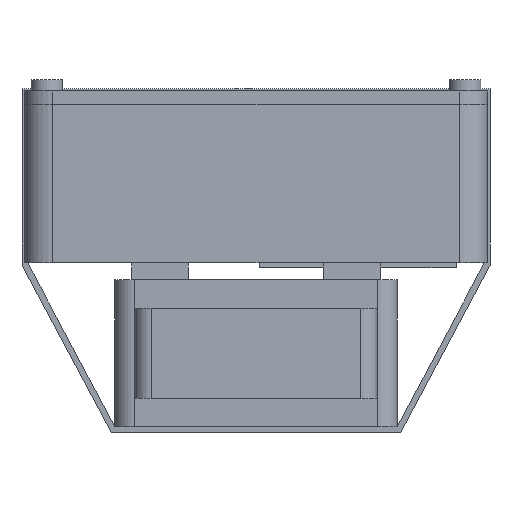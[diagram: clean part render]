
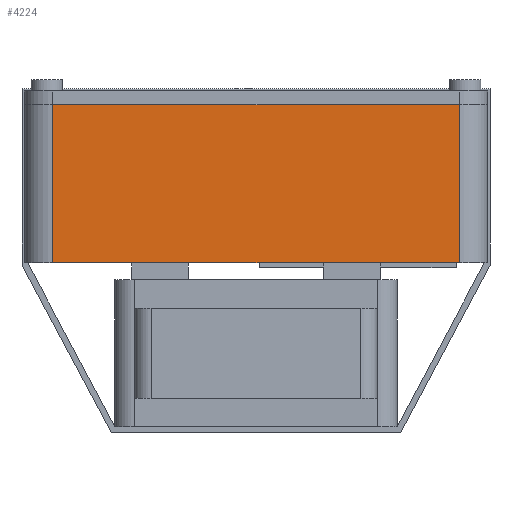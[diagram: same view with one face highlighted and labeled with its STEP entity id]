
A CAD part, front view. The second image highlights one B-rep face of the part: STEP entity #4224.
In plain terms, the highlighted planar face has unit normal (0, -1, 0).
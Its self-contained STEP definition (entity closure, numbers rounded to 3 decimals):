
#482 = PLANE('',#483);
#483 = AXIS2_PLACEMENT_3D('',#484,#485,#486);
#484 = CARTESIAN_POINT('',(0.,0.,0.));
#485 = DIRECTION('',(0.,0.,1.));
#486 = DIRECTION('',(1.,0.,-0.));
#510 = CYLINDRICAL_SURFACE('',#511,5.);
#511 = AXIS2_PLACEMENT_3D('',#512,#513,#514);
#512 = CARTESIAN_POINT('',(-36.,-50.,0.));
#513 = DIRECTION('',(0.,0.,-1.));
#514 = DIRECTION('',(-1.,0.,0.));
#538 = PLANE('',#539);
#539 = AXIS2_PLACEMENT_3D('',#540,#541,#542);
#540 = CARTESIAN_POINT('',(0.,0.,28.));
#541 = DIRECTION('',(0.,0.,1.));
#542 = DIRECTION('',(1.,0.,-0.));
#579 = VERTEX_POINT('',#580);
#580 = CARTESIAN_POINT('',(-36.,-55.,0.));
#606 = EDGE_CURVE('',#579,#607,#609,.T.);
#607 = VERTEX_POINT('',#608);
#608 = CARTESIAN_POINT('',(36.,-55.,0.));
#609 = SURFACE_CURVE('',#610,(#614,#621),.PCURVE_S1.);
#610 = LINE('',#611,#612);
#611 = CARTESIAN_POINT('',(0.,-55.,0.));
#612 = VECTOR('',#613,1.);
#613 = DIRECTION('',(1.,0.,0.));
#614 = PCURVE('',#482,#615);
#615 = DEFINITIONAL_REPRESENTATION('',(#616),#620);
#616 = LINE('',#617,#618);
#617 = CARTESIAN_POINT('',(0.,-55.));
#618 = VECTOR('',#619,1.);
#619 = DIRECTION('',(1.,0.));
#620 = ( GEOMETRIC_REPRESENTATION_CONTEXT(2) 
PARAMETRIC_REPRESENTATION_CONTEXT() REPRESENTATION_CONTEXT('2D SPACE',''
  ) );
#621 = PCURVE('',#622,#627);
#622 = PLANE('',#623);
#623 = AXIS2_PLACEMENT_3D('',#624,#625,#626);
#624 = CARTESIAN_POINT('',(-36.,-55.,0.));
#625 = DIRECTION('',(0.,1.,0.));
#626 = DIRECTION('',(1.,0.,0.));
#627 = DEFINITIONAL_REPRESENTATION('',(#628),#632);
#628 = LINE('',#629,#630);
#629 = CARTESIAN_POINT('',(36.,0.));
#630 = VECTOR('',#631,1.);
#631 = DIRECTION('',(1.,0.));
#632 = ( GEOMETRIC_REPRESENTATION_CONTEXT(2) 
PARAMETRIC_REPRESENTATION_CONTEXT() REPRESENTATION_CONTEXT('2D SPACE',''
  ) );
#655 = CYLINDRICAL_SURFACE('',#656,5.);
#656 = AXIS2_PLACEMENT_3D('',#657,#658,#659);
#657 = CARTESIAN_POINT('',(36.,-50.,0.));
#658 = DIRECTION('',(0.,0.,-1.));
#659 = DIRECTION('',(-1.,0.,0.));
#1972 = VERTEX_POINT('',#1973);
#1973 = CARTESIAN_POINT('',(-36.,-55.,28.));
#1999 = EDGE_CURVE('',#1972,#2000,#2002,.T.);
#2000 = VERTEX_POINT('',#2001);
#2001 = CARTESIAN_POINT('',(36.,-55.,28.));
#2002 = SURFACE_CURVE('',#2003,(#2007,#2014),.PCURVE_S1.);
#2003 = LINE('',#2004,#2005);
#2004 = CARTESIAN_POINT('',(0.,-55.,28.));
#2005 = VECTOR('',#2006,1.);
#2006 = DIRECTION('',(1.,0.,0.));
#2007 = PCURVE('',#538,#2008);
#2008 = DEFINITIONAL_REPRESENTATION('',(#2009),#2013);
#2009 = LINE('',#2010,#2011);
#2010 = CARTESIAN_POINT('',(0.,-55.));
#2011 = VECTOR('',#2012,1.);
#2012 = DIRECTION('',(1.,0.));
#2013 = ( GEOMETRIC_REPRESENTATION_CONTEXT(2) 
PARAMETRIC_REPRESENTATION_CONTEXT() REPRESENTATION_CONTEXT('2D SPACE',''
  ) );
#2014 = PCURVE('',#622,#2015);
#2015 = DEFINITIONAL_REPRESENTATION('',(#2016),#2020);
#2016 = LINE('',#2017,#2018);
#2017 = CARTESIAN_POINT('',(36.,-28.));
#2018 = VECTOR('',#2019,1.);
#2019 = DIRECTION('',(1.,0.));
#2020 = ( GEOMETRIC_REPRESENTATION_CONTEXT(2) 
PARAMETRIC_REPRESENTATION_CONTEXT() REPRESENTATION_CONTEXT('2D SPACE',''
  ) );
#2827 = EDGE_CURVE('',#579,#1972,#2828,.T.);
#2828 = SURFACE_CURVE('',#2829,(#2833,#2840),.PCURVE_S1.);
#2829 = LINE('',#2830,#2831);
#2830 = CARTESIAN_POINT('',(-36.,-55.,0.));
#2831 = VECTOR('',#2832,1.);
#2832 = DIRECTION('',(0.,0.,1.));
#2833 = PCURVE('',#510,#2834);
#2834 = DEFINITIONAL_REPRESENTATION('',(#2835),#2839);
#2835 = LINE('',#2836,#2837);
#2836 = CARTESIAN_POINT('',(4.712,0.));
#2837 = VECTOR('',#2838,1.);
#2838 = DIRECTION('',(0.,-1.));
#2839 = ( GEOMETRIC_REPRESENTATION_CONTEXT(2) 
PARAMETRIC_REPRESENTATION_CONTEXT() REPRESENTATION_CONTEXT('2D SPACE',''
  ) );
#2840 = PCURVE('',#622,#2841);
#2841 = DEFINITIONAL_REPRESENTATION('',(#2842),#2846);
#2842 = LINE('',#2843,#2844);
#2843 = CARTESIAN_POINT('',(0.,0.));
#2844 = VECTOR('',#2845,1.);
#2845 = DIRECTION('',(0.,-1.));
#2846 = ( GEOMETRIC_REPRESENTATION_CONTEXT(2) 
PARAMETRIC_REPRESENTATION_CONTEXT() REPRESENTATION_CONTEXT('2D SPACE',''
  ) );
#4203 = EDGE_CURVE('',#607,#2000,#4204,.T.);
#4204 = SURFACE_CURVE('',#4205,(#4209,#4216),.PCURVE_S1.);
#4205 = LINE('',#4206,#4207);
#4206 = CARTESIAN_POINT('',(36.,-55.,0.));
#4207 = VECTOR('',#4208,1.);
#4208 = DIRECTION('',(0.,0.,1.));
#4209 = PCURVE('',#655,#4210);
#4210 = DEFINITIONAL_REPRESENTATION('',(#4211),#4215);
#4211 = LINE('',#4212,#4213);
#4212 = CARTESIAN_POINT('',(4.712,0.));
#4213 = VECTOR('',#4214,1.);
#4214 = DIRECTION('',(0.,-1.));
#4215 = ( GEOMETRIC_REPRESENTATION_CONTEXT(2) 
PARAMETRIC_REPRESENTATION_CONTEXT() REPRESENTATION_CONTEXT('2D SPACE',''
  ) );
#4216 = PCURVE('',#622,#4217);
#4217 = DEFINITIONAL_REPRESENTATION('',(#4218),#4222);
#4218 = LINE('',#4219,#4220);
#4219 = CARTESIAN_POINT('',(72.,0.));
#4220 = VECTOR('',#4221,1.);
#4221 = DIRECTION('',(0.,-1.));
#4222 = ( GEOMETRIC_REPRESENTATION_CONTEXT(2) 
PARAMETRIC_REPRESENTATION_CONTEXT() REPRESENTATION_CONTEXT('2D SPACE',''
  ) );
#4224 = ADVANCED_FACE('',(#4225),#622,.F.);
#4225 = FACE_BOUND('',#4226,.F.);
#4226 = EDGE_LOOP('',(#4227,#4228,#4229,#4230));
#4227 = ORIENTED_EDGE('',*,*,#2827,.T.);
#4228 = ORIENTED_EDGE('',*,*,#1999,.T.);
#4229 = ORIENTED_EDGE('',*,*,#4203,.F.);
#4230 = ORIENTED_EDGE('',*,*,#606,.F.);
